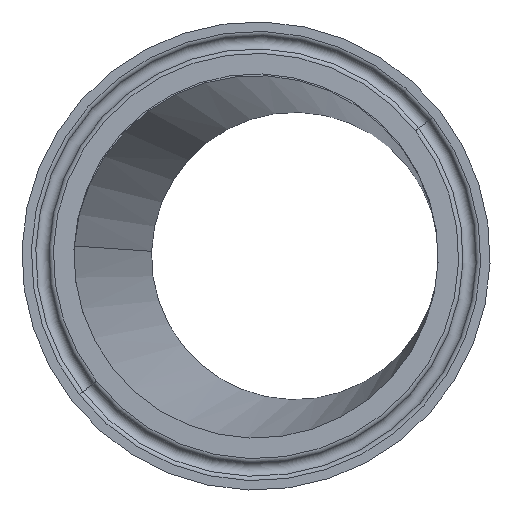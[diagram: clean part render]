
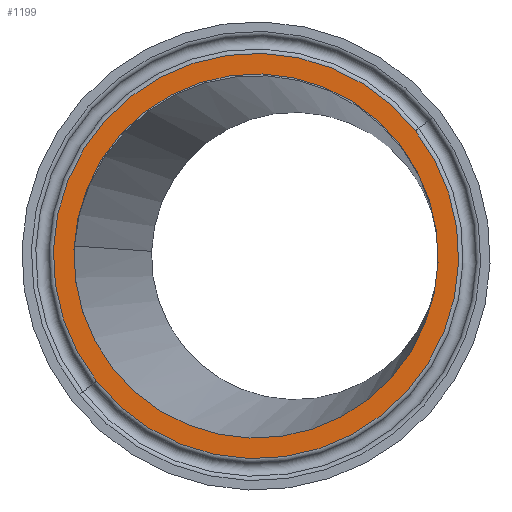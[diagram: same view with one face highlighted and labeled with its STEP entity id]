
A CAD part, left-side view. The second image highlights one B-rep face of the part: STEP entity #1199.
In plain terms, the highlighted planar face has unit normal (-1, 0, 0) as drawn and (0, -1, 0) by its records, which use the part's own axes.
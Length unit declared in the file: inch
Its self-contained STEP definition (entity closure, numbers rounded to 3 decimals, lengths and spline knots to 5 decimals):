
#13 = DIRECTION ( 'NONE',  ( 0., 0., 1. ) ) ;
#20 = PLANE ( 'NONE',  #1161 ) ;
#60 = EDGE_CURVE ( 'NONE', #775, #937, #629, .T. ) ;
#105 = DIRECTION ( 'NONE',  ( 0., 1., 0. ) ) ;
#115 = CIRCLE ( 'NONE', #1077, 1.185 ) ;
#245 = CARTESIAN_POINT ( 'NONE',  ( 0., 0., 0. ) ) ;
#262 = ORIENTED_EDGE ( 'NONE', *, *, #508, .F. ) ;
#279 = VERTEX_POINT ( 'NONE', #897 ) ;
#290 = EDGE_CURVE ( 'NONE', #1165, #279, #1264, .T. ) ;
#339 = DIRECTION ( 'NONE',  ( 0., -1., 0. ) ) ;
#424 = CARTESIAN_POINT ( 'NONE',  ( 0., 0., 1.31892 ) ) ;
#431 = CARTESIAN_POINT ( 'NONE',  ( 0., 0., -1.31892 ) ) ;
#462 = CARTESIAN_POINT ( 'NONE',  ( 0., 0., 0. ) ) ;
#477 = EDGE_CURVE ( 'NONE', #937, #775, #505, .T. ) ;
#505 = CIRCLE ( 'NONE', #1392, 1.31892 ) ;
#508 = EDGE_CURVE ( 'NONE', #279, #1165, #115, .T. ) ;
#516 = EDGE_LOOP ( 'NONE', ( #969, #262 ) ) ;
#629 = CIRCLE ( 'NONE', #1002, 1.31892 ) ;
#651 = EDGE_LOOP ( 'NONE', ( #832, #1212 ) ) ;
#699 = DIRECTION ( 'NONE',  ( 0., -1., 0. ) ) ;
#772 = DIRECTION ( 'NONE',  ( 0., 0., -1. ) ) ;
#775 = VERTEX_POINT ( 'NONE', #424 ) ;
#807 = DIRECTION ( 'NONE',  ( 0., -1., 0. ) ) ;
#832 = ORIENTED_EDGE ( 'NONE', *, *, #477, .T. ) ;
#888 = AXIS2_PLACEMENT_3D ( 'NONE', #1347, #339, #772 ) ;
#897 = CARTESIAN_POINT ( 'NONE',  ( 0., 0., 1.185 ) ) ;
#937 = VERTEX_POINT ( 'NONE', #431 ) ;
#969 = ORIENTED_EDGE ( 'NONE', *, *, #290, .F. ) ;
#1002 = AXIS2_PLACEMENT_3D ( 'NONE', #462, #1234, #1393 ) ;
#1077 = AXIS2_PLACEMENT_3D ( 'NONE', #245, #699, #1149 ) ;
#1122 = CARTESIAN_POINT ( 'NONE',  ( 0., 0., 0. ) ) ;
#1149 = DIRECTION ( 'NONE',  ( 0., 0., -1. ) ) ;
#1155 = CARTESIAN_POINT ( 'NONE',  ( 0., 0., -1.185 ) ) ;
#1161 = AXIS2_PLACEMENT_3D ( 'NONE', #1122, #105, #13 ) ;
#1165 = VERTEX_POINT ( 'NONE', #1155 ) ;
#1199 = ADVANCED_FACE ( 'NONE', ( #1250, #1224 ), #20, .F. ) ;
#1212 = ORIENTED_EDGE ( 'NONE', *, *, #60, .T. ) ;
#1224 = FACE_OUTER_BOUND ( 'NONE', #651, .T. ) ;
#1234 = DIRECTION ( 'NONE',  ( 0., -1., 0. ) ) ;
#1250 = FACE_BOUND ( 'NONE', #516, .T. ) ;
#1253 = CARTESIAN_POINT ( 'NONE',  ( 0., 0., 0. ) ) ;
#1261 = DIRECTION ( 'NONE',  ( 0., 0., -1. ) ) ;
#1264 = CIRCLE ( 'NONE', #888, 1.185 ) ;
#1347 = CARTESIAN_POINT ( 'NONE',  ( 0., 0., 0. ) ) ;
#1392 = AXIS2_PLACEMENT_3D ( 'NONE', #1253, #807, #1261 ) ;
#1393 = DIRECTION ( 'NONE',  ( 0., 0., -1. ) ) ;
